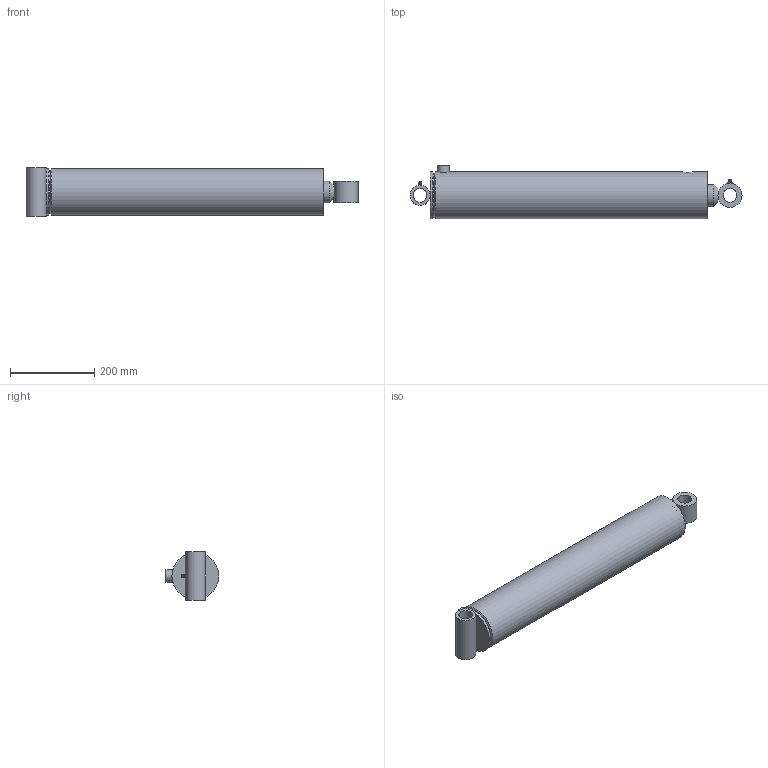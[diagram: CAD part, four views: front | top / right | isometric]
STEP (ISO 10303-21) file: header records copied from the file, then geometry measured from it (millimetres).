
FILE_DESCRIPTION((''),'2;1');
FILE_NAME('\\SRVR-ENG\EngSales\PMC-5620.stp','2011-01-25T13:16:08',('KneiflD'),(''),'Autodesk Inventor 2011','Autodesk Inventor 2011','');
FILE_SCHEMA(('AUTOMOTIVE_DESIGN { 1 0 10303 214 1 1 1 1 }'));
Length unit declared in the file: inch
Products named in the file (23): PMC-5620V; 061900038V; 051900060V; 161900081V; 200014404V; 210600086V; 021100299V; 011100869V; 210600347V; 071900019; 081900451V; 220000212V; 240004008V; 240034342V; 240000342V; 240000026V; 240061342V; 240020009V; 230001400V; 200018003V; 270010002V; 270010020V; 250001329V
Assembly tree (25 placements, depth 3):
  PMC-5620V
    061900038V
      051900060V
      161900081V
      200014404V
      210600086V
    021100299V
      011100869V
      210600347V
    071900019
    081900451V
    220000212V
    240004008V
    240034342V  x2
    240000342V  x2
    240000026V
    240061342V
    240020009V
    230001400V
    200018003V  x2
    270010002V
    270010020V
    250001329V
Bounding box: 788.99 x 127 x 114.3 mm (x, y, z)
Volume: 3298455.8 mm3; surface area: 763791.3 mm2
Topology: 23 solids, 23 shells, 258 faces, 527 edges, 319 vertices
Faces by surface type: plane 114, cylinder 65, cone 39, torus 35, bspline 3, sphere 2
Full cylindrical faces by diameter (mm): 1.524 x2, 3.175 x2, 6.074 x1, 8.839 x2, 9.08 x1, 12.7 x1, 17.463 x1, 17.475 x1, 23.813 x1, 28.575 x1, 29.972 x1, 31.699 x1, 31.826 x1, 32.258 x1, 32.385 x1, 34.315 x1, 47.625 x1, 50.8 x2, 50.876 x2, 51.752 x1, 54.61 x1, 57.15 x1, 58.725 x2, 59.373 x1, 60.325 x1, 60.452 x1, 63.5 x1, 80.95 x1, 91.592 x1, 92.151 x1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
Entity records: 6719 total; most frequent: CARTESIAN_POINT 1546, DIRECTION 1047, ORIENTED_EDGE 684, AXIS2_PLACEMENT_3D 478, EDGE_LOOP 408, EDGE_CURVE 342, VERTEX_POINT 276, FACE_OUTER_BOUND 236
